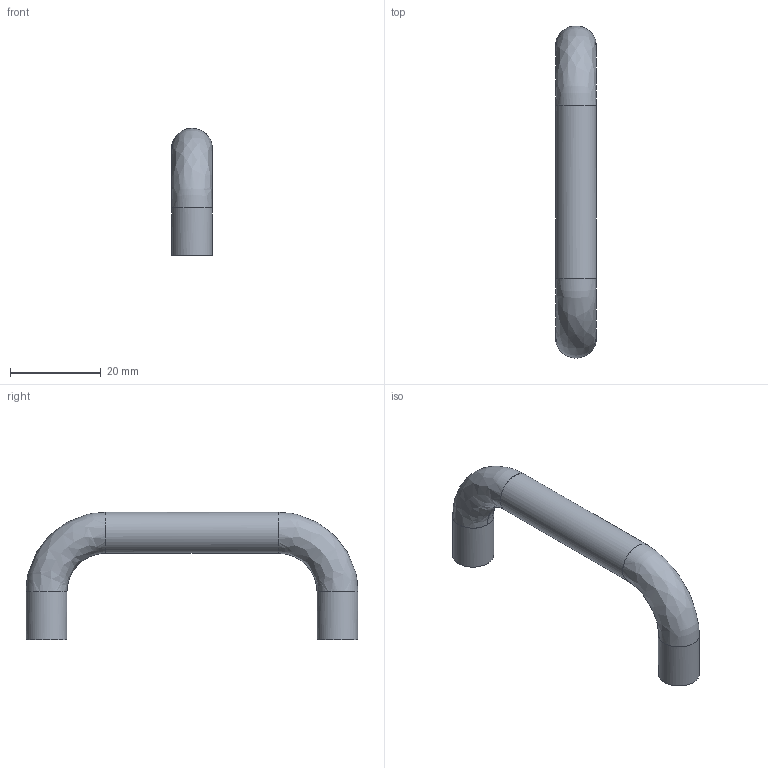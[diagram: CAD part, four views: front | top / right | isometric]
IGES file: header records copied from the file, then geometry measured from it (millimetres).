
Start section: C
Global section: file name: 0287-73.igs; native system: By Siemens PLM Incorporated; preprocessor: XPlus GENERIC/IGES 16.0.42; author: Author; organization: Title; date: 20231211.120622; units: millimetre
Bounding box: 9 x 73 x 28 mm (x, y, z)
Surface area: 3273.3 mm2 (no closed solid volume)
Topology: 0 solids, 0 shells, 11 faces, 62 edges, 62 vertices
Faces by surface type: bspline 11
